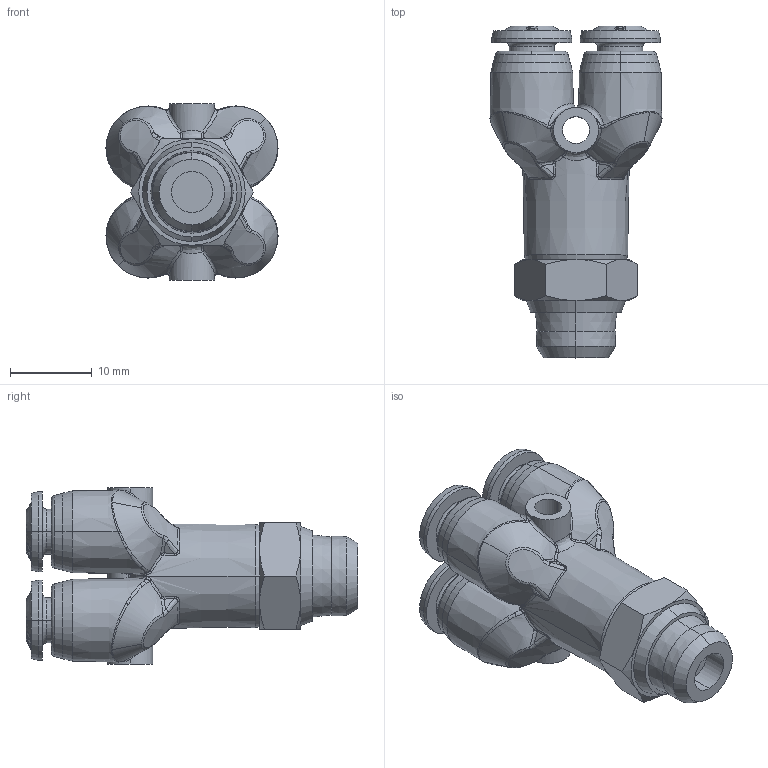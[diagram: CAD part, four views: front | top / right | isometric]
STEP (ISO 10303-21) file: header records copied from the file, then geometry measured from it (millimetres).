
FILE_DESCRIPTION (( 'STEP AP214' ), '1' );
FILE_NAME ('5534000001.step', '2012-10-02T17:48:01', ( '' ), ( '' ), 'SwSTEP 2.0', 'SolidWorks 2012', '' );
FILE_SCHEMA (( 'AUTOMOTIVE_DESIGN' ));
Length unit declared in the file: millimetre
Products named in the file (1): 5534000001
Bounding box: 21 x 40.5 x 21.5 mm (x, y, z)
Volume: 7076.9 mm3; surface area: 4304.1 mm2
Topology: 1 solids, 7 shells, 1023 faces, 2605 edges, 1668 vertices
Faces by surface type: bspline 658, cone 184, cylinder 77, plane 73, torus 31
Entity records: 66471 total; most frequent: CARTESIAN_POINT 36222, ORIENTED_EDGE 5202, EDGE_CURVE 2601, B_SPLINE_CURVE_WITH_KNOTS 1935, DIRECTION 1820, VERTEX_POINT 1668, EDGE_LOOP 1101, UNCERTAINTY_MEASURE_WITH_UNIT 1026
